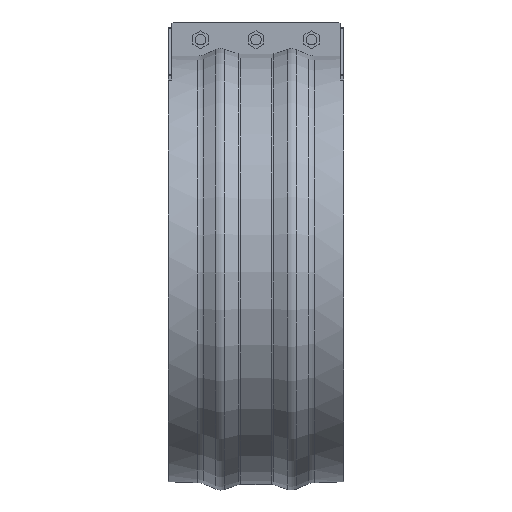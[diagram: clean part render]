
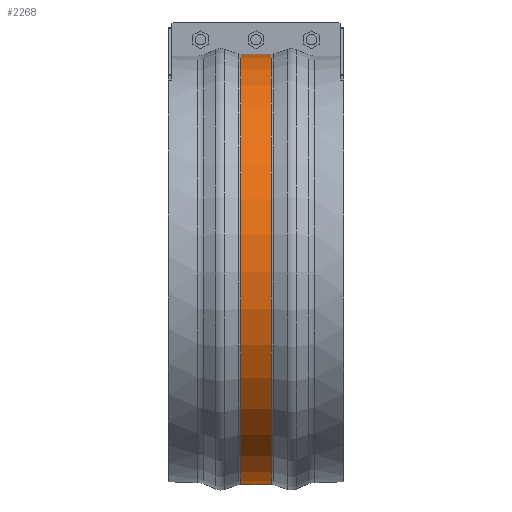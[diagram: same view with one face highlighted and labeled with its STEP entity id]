
A CAD part, front view. The second image highlights one B-rep face of the part: STEP entity #2268.
In plain terms, the highlighted cylindrical face has radius 389.24 mm (diameter 778.479 mm), a partial arc.
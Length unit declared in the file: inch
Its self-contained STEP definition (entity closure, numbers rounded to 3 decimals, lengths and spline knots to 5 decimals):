
#266=FACE_OUTER_BOUND('',#395,.T.);
#395=EDGE_LOOP('',(#1872,#1873,#1874,#1875));
#597=LINE('',#3675,#788);
#602=LINE('',#3760,#793);
#788=VECTOR('',#2968,0.3937);
#793=VECTOR('',#2977,0.3937);
#848=CIRCLE('',#2449,15.32439);
#849=CIRCLE('',#2451,15.32439);
#1054=VERTEX_POINT('',#3667);
#1055=VERTEX_POINT('',#3674);
#1066=VERTEX_POINT('',#3752);
#1067=VERTEX_POINT('',#3759);
#1333=EDGE_CURVE('',#1055,#1054,#597,.T.);
#1348=EDGE_CURVE('',#1067,#1066,#602,.T.);
#1360=EDGE_CURVE('',#1055,#1066,#848,.T.);
#1361=EDGE_CURVE('',#1054,#1067,#849,.T.);
#1872=ORIENTED_EDGE('',*,*,#1333,.T.);
#1873=ORIENTED_EDGE('',*,*,#1361,.T.);
#1874=ORIENTED_EDGE('',*,*,#1348,.T.);
#1875=ORIENTED_EDGE('',*,*,#1360,.F.);
#2053=CYLINDRICAL_SURFACE('',#2450,15.32439);
#2268=ADVANCED_FACE('',(#266),#2053,.T.);
#2449=AXIS2_PLACEMENT_3D('',#3810,#2999,#3000);
#2450=AXIS2_PLACEMENT_3D('',#3811,#3001,#3002);
#2451=AXIS2_PLACEMENT_3D('',#3812,#3003,#3004);
#2968=DIRECTION('',(-1.,0.,0.));
#2977=DIRECTION('',(1.,0.,0.));
#2999=DIRECTION('center_axis',(1.,0.,0.));
#3000=DIRECTION('ref_axis',(0.,0.,-1.));
#3001=DIRECTION('center_axis',(1.,0.,0.));
#3002=DIRECTION('ref_axis',(0.,0.,
-1.));
#3003=DIRECTION('center_axis',(1.,0.,0.));
#3004=DIRECTION('ref_axis',(0.,0.,-1.));
#3667=CARTESIAN_POINT('',(-1.08851,-0.375,15.3198));
#3674=CARTESIAN_POINT('',(1.08851,-0.375,15.3198));
#3675=CARTESIAN_POINT('',(0.,-0.375,15.3198));
#3752=CARTESIAN_POINT('',(1.08851,0.375,15.3198));
#3759=CARTESIAN_POINT('',(-1.08851,0.375,15.3198));
#3760=CARTESIAN_POINT('',(0.,0.375,15.3198));
#3810=CARTESIAN_POINT('Origin',(1.08851,0.,0.));
#3811=CARTESIAN_POINT('Origin',(0.,0.,0.));
#3812=CARTESIAN_POINT('Origin',(-1.08851,0.,
0.));
